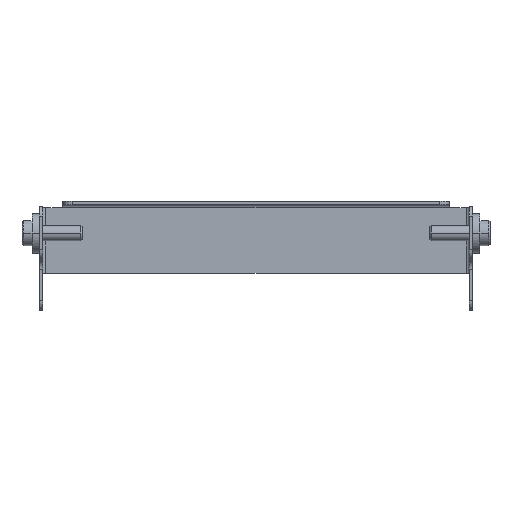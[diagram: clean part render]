
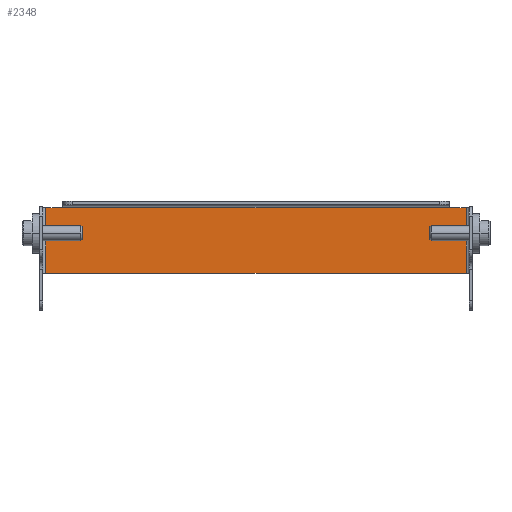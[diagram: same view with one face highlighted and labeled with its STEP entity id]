
A CAD part, top view. The second image highlights one B-rep face of the part: STEP entity #2348.
In plain terms, the highlighted planar face has unit normal (0, 0, 1).
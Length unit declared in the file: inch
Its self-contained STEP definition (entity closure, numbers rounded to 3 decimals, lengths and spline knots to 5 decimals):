
#522=CARTESIAN_POINT('',(-3.3095,-0.22248,0.));
#532=CARTESIAN_POINT('',(3.3095,-0.22248,0.));
#538=DIRECTION('',(0.,1.,0.));
#539=VECTOR('',#538,1.03498);
#540=CARTESIAN_POINT('',(-3.3095,-0.22248,0.));
#541=LINE('',#540,#539);
#948=DIRECTION('',(0.,-1.,0.));
#949=VECTOR('',#948,1.03498);
#950=CARTESIAN_POINT('',(3.3095,0.8125,0.));
#951=LINE('',#950,#949);
#956=DIRECTION('',(1.,0.,0.));
#957=VECTOR('',#956,6.619);
#958=CARTESIAN_POINT('',(-3.3095,-0.22248,0.));
#959=LINE('',#958,#957);
#964=DIRECTION('',(1.,0.,0.));
#965=VECTOR('',#964,0.2645);
#966=CARTESIAN_POINT('',(-3.3095,0.8125,0.));
#967=LINE('',#966,#965);
#982=DIRECTION('',(1.,0.,0.));
#983=VECTOR('',#982,6.09);
#984=CARTESIAN_POINT('',(-3.045,0.8125,0.));
#985=LINE('',#984,#983);
#1076=DIRECTION('',(1.,0.,0.));
#1077=VECTOR('',#1076,0.2645);
#1078=CARTESIAN_POINT('',(3.045,0.8125,0.));
#1079=LINE('',#1078,#1077);
#1323=CARTESIAN_POINT('',(3.3095,0.8125,0.));
#1325=VERTEX_POINT('',#1323);
#1366=CARTESIAN_POINT('',(-3.045,0.8125,0.));
#1367=CARTESIAN_POINT('',(3.045,0.8125,0.));
#1368=VERTEX_POINT('',#1366);
#1369=VERTEX_POINT('',#1367);
#1398=VERTEX_POINT('',#522);
#1492=CARTESIAN_POINT('',(-3.3095,0.8125,0.));
#1493=VERTEX_POINT('',#1492);
#1569=VERTEX_POINT('',#532);
#2332=CARTESIAN_POINT('',(0.,0.,0.));
#2333=DIRECTION('',(0.,0.,1.));
#2334=DIRECTION('',(1.,0.,0.));
#2335=AXIS2_PLACEMENT_3D('',#2332,#2333,#2334);
#2336=PLANE('',#2335);
#2337=ORIENTED_EDGE('',*,*,#1925,.F.);
#2338=ORIENTED_EDGE('',*,*,#1954,.T.);
#2340=ORIENTED_EDGE('',*,*,#2339,.T.);
#2342=ORIENTED_EDGE('',*,*,#2341,.T.);
#2344=ORIENTED_EDGE('',*,*,#2343,.T.);
#2345=ORIENTED_EDGE('',*,*,#2323,.T.);
#2346=EDGE_LOOP('',(#2337,#2338,#2340,#2342,#2344,#2345));
#2347=FACE_OUTER_BOUND('',#2346,.F.);
#1925=EDGE_CURVE('',#1398,#1569,#959,.T.);
#1954=EDGE_CURVE('',#1398,#1493,#541,.T.);
#2323=EDGE_CURVE('',#1325,#1569,#951,.T.);
#2339=EDGE_CURVE('',#1493,#1368,#967,.T.);
#2341=EDGE_CURVE('',#1368,#1369,#985,.T.);
#2343=EDGE_CURVE('',#1369,#1325,#1079,.T.);
#2348=ADVANCED_FACE('',(#2347),#2336,.T.);
